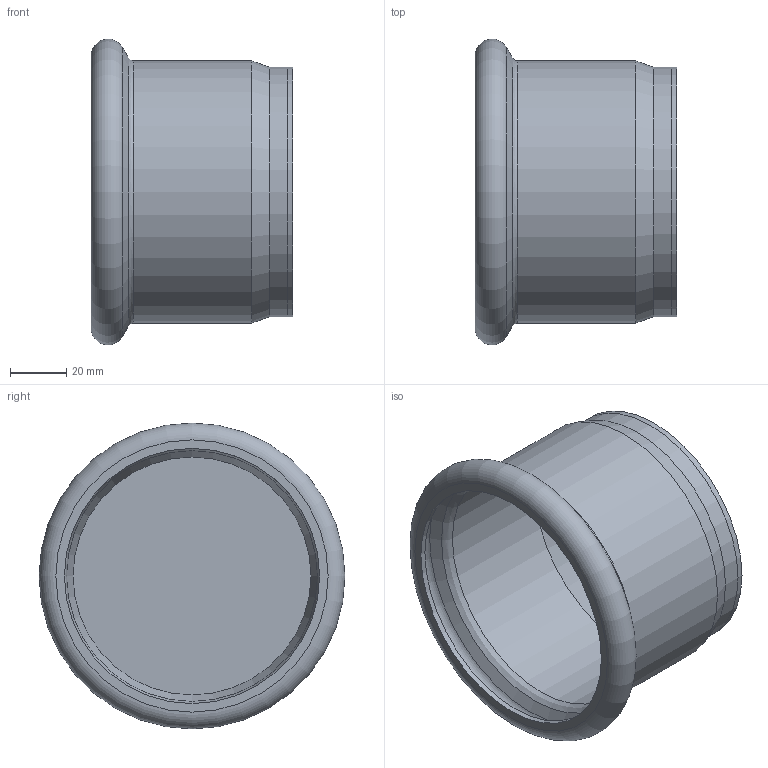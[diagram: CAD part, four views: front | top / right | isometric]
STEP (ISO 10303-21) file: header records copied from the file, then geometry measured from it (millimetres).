
FILE_DESCRIPTION((''),'2;1');
FILE_NAME('G:\Nirosan-Schmiedefeld\Technics\CAD\001 Serie 9.000\089\6930189(0).stp','2018-09-11T15:35:53',('herberg'),(''),'Autodesk Inventor 2009','Autodesk Inventor 2009','');
FILE_SCHEMA(('AUTOMOTIVE_DESIGN { 1 0 10303 214 1 1 1 1 }'));
Length unit declared in the file: millimetre
Products named in the file (3): 6930189(0); 69HM89P(0); D_6930189(0)
Assembly tree (2 placements, depth 2):
  6930189(0)
    69HM89P(0)
    D_6930189(0)
Bounding box: 72 x 109.1 x 109.1 mm (x, y, z)
Volume: 58830.7 mm3; surface area: 60512.2 mm2
Topology: 2 solids, 2 shells, 19 faces, 33 edges, 19 vertices
Faces by surface type: cylinder 6, plane 5, cone 4, bspline 2, torus 2
Full cylindrical faces by diameter (mm): 84.9 x1, 88.9 x2, 89.5 x1, 91 x1, 93.5 x1
Entity records: 547 total; most frequent: CARTESIAN_POINT 148, DIRECTION 80, AXIS2_PLACEMENT_3D 40, ORIENTED_EDGE 36, EDGE_LOOP 36, FACE_OUTER_BOUND 19, ADVANCED_FACE 19, VERTEX_POINT 18
